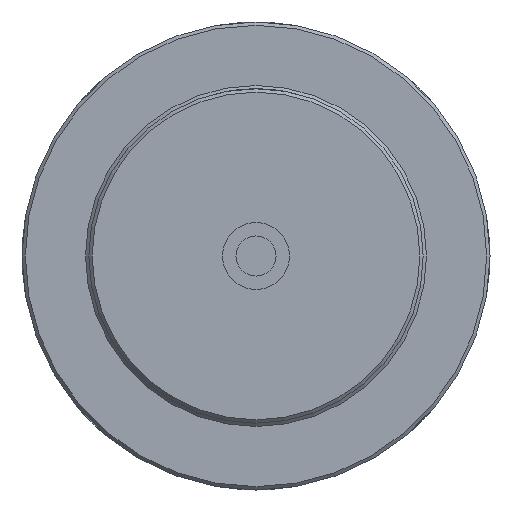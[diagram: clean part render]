
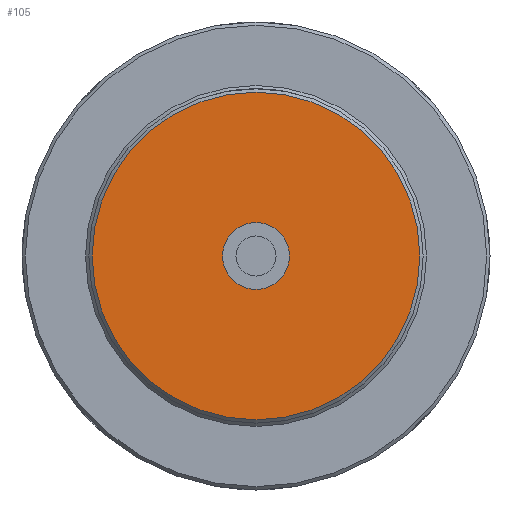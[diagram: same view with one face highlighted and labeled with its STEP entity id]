
A CAD part, left-side view. The second image highlights one B-rep face of the part: STEP entity #105.
In plain terms, the highlighted planar face has unit normal (-1, 0, 0).
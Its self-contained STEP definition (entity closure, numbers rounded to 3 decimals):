
#105 = ADVANCED_FACE( '', ( #219, #220 ), #221, .T. );
#219 = FACE_OUTER_BOUND( '', #361, .T. );
#220 = FACE_BOUND( '', #362, .T. );
#221 = PLANE( '', #363 );
#361 = EDGE_LOOP( '', ( #563 ) );
#362 = EDGE_LOOP( '', ( #564 ) );
#363 = AXIS2_PLACEMENT_3D( '', #565, #566, #567 );
#563 = ORIENTED_EDGE( '', *, *, #676, .T. );
#564 = ORIENTED_EDGE( '', *, *, #678, .F. );
#565 = CARTESIAN_POINT( '', ( 0., 0., 10. ) );
#566 = DIRECTION( '', ( -1., 0., 0. ) );
#567 = DIRECTION( '', ( 0., 0., 1. ) );
#676 = EDGE_CURVE( '', #750, #750, #751, .T. );
#678 = EDGE_CURVE( '', #754, #754, #755, .T. );
#750 = VERTEX_POINT( '', #1452 );
#751 = CIRCLE( '', #1453, 49. );
#754 = VERTEX_POINT( '', #1456 );
#755 = CIRCLE( '', #1457, 10. );
#1452 = CARTESIAN_POINT( '', ( 0., 0., 49. ) );
#1453 = AXIS2_PLACEMENT_3D( '', #1543, #1544, #1545 );
#1456 = CARTESIAN_POINT( '', ( 0., 0., 10. ) );
#1457 = AXIS2_PLACEMENT_3D( '', #1549, #1550, #1551 );
#1543 = CARTESIAN_POINT( '', ( 0., 0., 0. ) );
#1544 = DIRECTION( '', ( -1., 0., 0. ) );
#1545 = DIRECTION( '', ( 0., 0., 1. ) );
#1549 = CARTESIAN_POINT( '', ( 0., 0., 0. ) );
#1550 = DIRECTION( '', ( -1., 0., 0. ) );
#1551 = DIRECTION( '', ( 0., 0., 1. ) );
